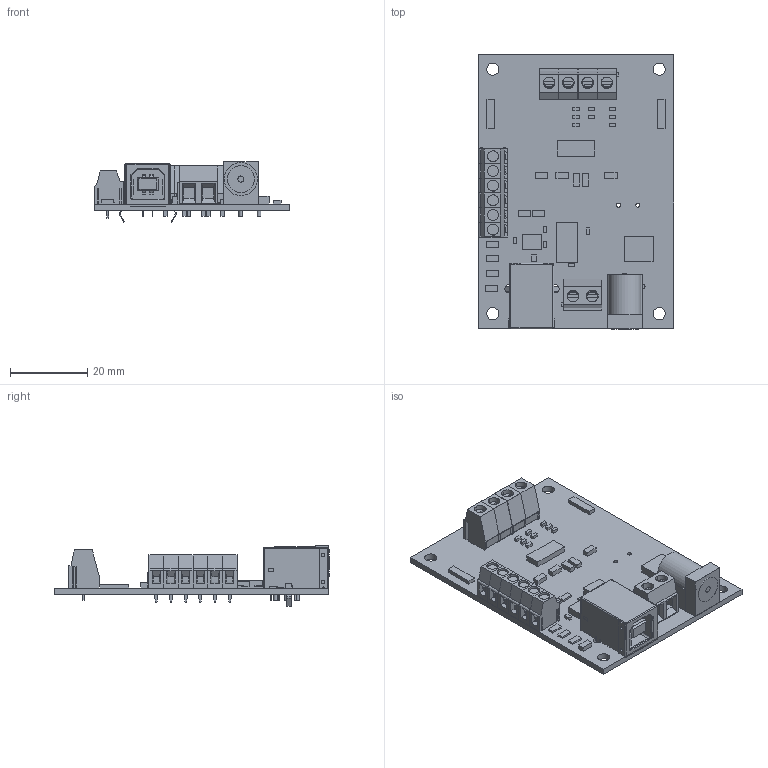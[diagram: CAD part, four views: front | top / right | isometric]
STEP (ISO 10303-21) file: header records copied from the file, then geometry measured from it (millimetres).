
FILE_DESCRIPTION(('Open CASCADE Model'),'2;1');
FILE_NAME('Open CASCADE Shape Model','2010-10-27T13:19:26',('Author'),( 'Open CASCADE'),'Open CASCADE STEP processor 6.2','Open CASCADE 6.2' ,'Unknown');
FILE_SCHEMA(('AUTOMOTIVE_DESIGN { 1 0 10303 214 1 1 1 1 }'));
Length unit declared in the file: millimetre
Products named in the file (81): PCB; Board; C17; 489473344; Extruded; J5; 398900302; Open CASCADE STEP translator 6.2 238.3.1.1; Open CASCADE STEP translator 6.2 238.3.1.2; J4; 20020327-d06_asm; 20020327-D-LEM; 20020327-D-REM; J2; J1; 670688000; Open CASCADE STEP translator 6.2 238.6.1.1; Open CASCADE STEP translator 6.2 238.6.1.2; U4; 489472064; R10; C16; 489473088; C12; 489489216; C11; U3; 603640848; C3; C5; 603633296; C6; C7; D1; 603639568; R3; 489488576; R7; R8; R9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
Assembly tree (110 placements, depth 4):
  PCB
    Board
    C17
      489473344
        Extruded
    J5
      398900302
        Open CASCADE STEP translator 6.2 238.3.1.1
        Open CASCADE STEP translator 6.2 238.3.1.2
    J4
      20020327-d06_asm
        20020327-D-LEM
        20020327-D-REM  x6
    J2
      398900302  x3
        Open CASCADE STEP translator 6.2 238.3.1.1
        Open CASCADE STEP translator 6.2 238.3.1.2
    J1
      670688000
        Open CASCADE STEP translator 6.2 238.6.1.1
        Open CASCADE STEP translator 6.2 238.6.1.2
    U4
      489472064
        Extruded
    R10
      489473344
        Extruded
    C16
      489473088
        Extruded
    C12
      489489216
        Extruded
    C11
      489489216
        Extruded
    U3
      603640848
        Extruded
    C3
      489473088
        Extruded
    C5
      603633296
        Extruded
    C6
      603633296
        Extruded
    C7
      489489216
        Extruded
    D1
      603639568
        Extruded
    R3
      489488576
        Extruded
    R7
      489488576
        Extruded
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Bounding box: 50.8 x 71.4 x 15.72 mm (x, y, z)
Volume: 12635.8 mm3; surface area: 16998.3 mm2
Topology: 59 solids, 59 shells, 1555 faces, 4045 edges, 2696 vertices
Faces by surface type: plane 1292, cylinder 233, cone 22, torus 8
Full cylindrical faces by diameter (mm): 0.33 x10, 0.965 x4, 1 x3, 1.067 x4, 1.321 x13, 1.6 x1, 2.184 x2, 3.175 x4, 7 x1, 8.6 x1
Entity records: 42842 total; most frequent: CARTESIAN_POINT 9842, DIRECTION 5878, LINE 3847, VECTOR 3847, ORIENTED_EDGE 3122, PCURVE 3122, DEFINITIONAL_REPRESENTATION 3122, EDGE_CURVE 1561
